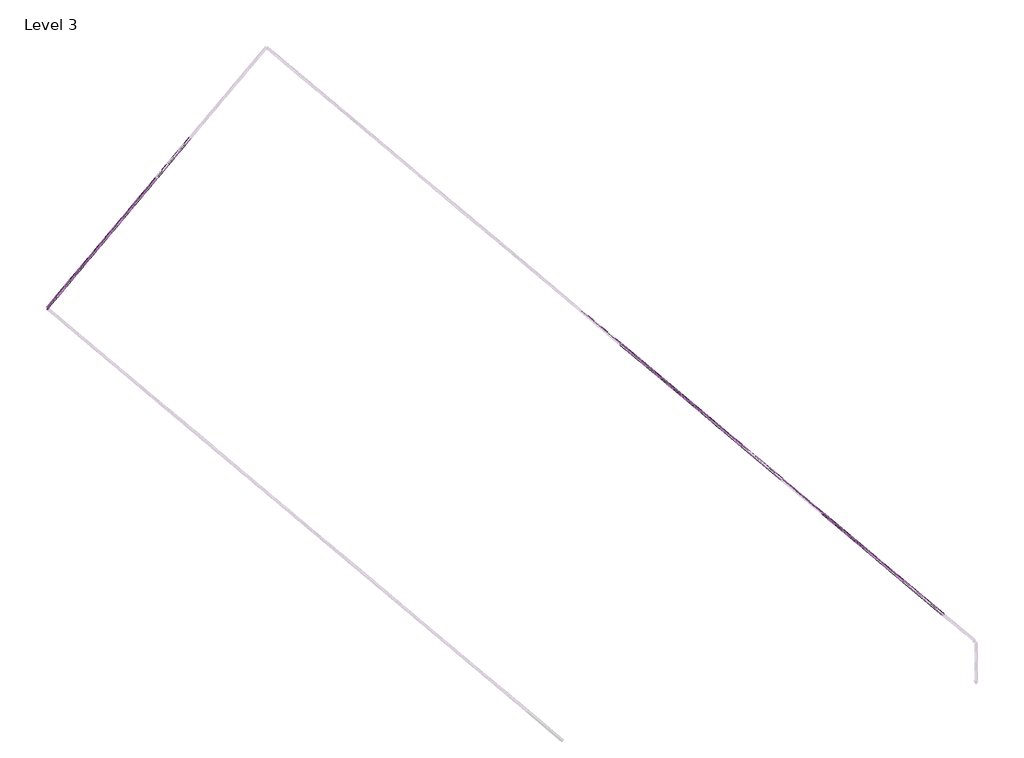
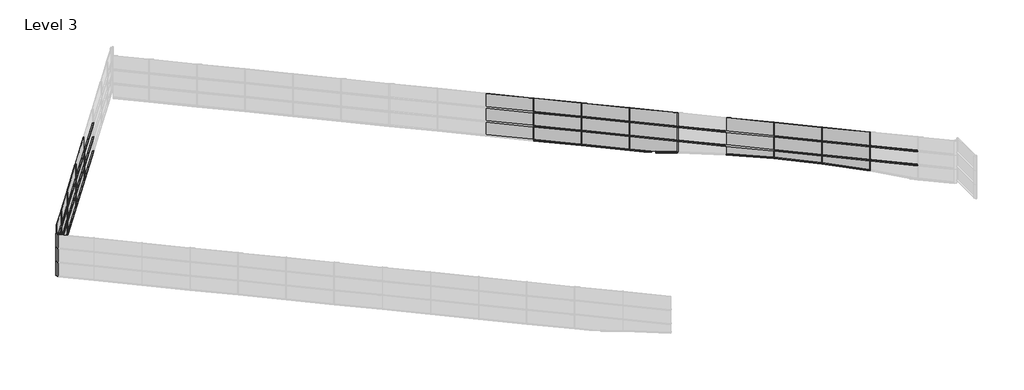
# One storey, part 3 of 4: 71 members, 33 plates.
"""IFC4 building model written with IfcOpenShell, lengths in millimetres."""

from ifc_helpers import new_model, si_unit, origin, place, context, project, spatial, transform, mapped, element, save
from components import member_e6b937b8, member_c2a2f73e, member_603446c5, member_2fb42f28, member_ef795203, member_eaba9652, member_7cbddb58, member_668938be, member_697baf5a, member_4b70c0b3, member_328d3667, member_adceca6a, member_117cba67, member_387caf8a, system_panel_glazed_a2c5a472, system_panel_glazed_3c43611c, system_panel_glazed_c349e88e, system_panel_glazed_51db33f8, system_panel_glazed_0cdb66c7, system_panel_glazed_95655f7c, system_panel_glazed_a2e3b23e

model = new_model("IFC4")

# Units and contexts
model_context = context("Model", 3, world=origin())
ifc_project = project(units=[si_unit("LENGTHUNIT", "METRE", prefix="MILLI")], contexts=[model_context])

# Site, building, storey
site = spatial("IfcSite", under=ifc_project)
building = spatial("IfcBuilding", under=site)
storey = spatial("IfcBuildingStorey", under=building, Name="Level 3", Elevation=6096.0)

# Members
placement = place(None, origin())
member_shape = member_e6b937b8(model_context)
element("IfcMember", 1, ObjectType="Rectangular Mullion : 1.5\" x 2.5\" rectangular", at=placement, inside=storey, context=model_context, shape_type="MappedRepresentation", body=[
    mapped(member_shape, transform((-58047.6752037, 33669.3461699, 7820.8974171), x_axis=(0.6427876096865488, 0.7660444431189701, 0.0), y_axis=(-0.7660444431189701, 0.6427876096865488, 0.0), z_axis=(0.0, 0.0, 1.0))),
])
element("IfcMember", 2, ObjectType="Rectangular Mullion : 1.5\" x 2.5\" rectangular", at=placement, inside=storey, context=model_context, shape_type="MappedRepresentation", body=[
    mapped(member_shape, transform((-56676.2235597, 35303.7785937, 7820.8974171), x_axis=(0.6427876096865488, 0.7660444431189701, 0.0), y_axis=(-0.7660444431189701, 0.6427876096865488, 0.0), z_axis=(0.0, 0.0, 1.0))),
])
element("IfcMember", 3, ObjectType="Rectangular Mullion : 1.5\" x 2.5\" rectangular", at=placement, inside=storey, context=model_context, shape_type="MappedRepresentation", body=[
    mapped(member_shape, transform((-54717.0069254, 37638.6820564, 7820.8974171), x_axis=(0.6427876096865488, 0.7660444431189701, 0.0), y_axis=(-0.7660444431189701, 0.6427876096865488, 0.0), z_axis=(0.0, 0.0, 1.0))),
])
element("IfcMember", 4, ObjectType="Rectangular Mullion : 1.5\" x 2.5\" rectangular", at=placement, inside=storey, context=model_context, shape_type="MappedRepresentation", body=[
    mapped(member_shape, transform((-52757.790291, 39973.585519, 7820.8974171), x_axis=(0.6427876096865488, 0.7660444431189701, 0.0), y_axis=(-0.7660444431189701, 0.6427876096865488, 0.0), z_axis=(0.0, 0.0, 1.0))),
])
element("IfcMember", 5, ObjectType="Rectangular Mullion : 1.5\" x 2.5\" rectangular", at=placement, inside=storey, context=model_context, shape_type="MappedRepresentation", body=[
    mapped(member_shape, transform((-58047.6752037, 33669.3461699, 8887.6974171), x_axis=(0.6427876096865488, 0.7660444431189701, 0.0), y_axis=(-0.7660444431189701, 0.6427876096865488, 0.0), z_axis=(0.0, 0.0, 1.0))),
])
element("IfcMember", 6, ObjectType="Rectangular Mullion : 1.5\" x 2.5\" rectangular", at=placement, inside=storey, context=model_context, shape_type="MappedRepresentation", body=[
    mapped(member_shape, transform((-56676.2235597, 35303.7785937, 8887.6974171), x_axis=(0.6427876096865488, 0.7660444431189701, 0.0), y_axis=(-0.7660444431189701, 0.6427876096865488, 0.0), z_axis=(0.0, 0.0, 1.0))),
])
element("IfcMember", 7, ObjectType="Rectangular Mullion : 1.5\" x 2.5\" rectangular", at=placement, inside=storey, context=model_context, shape_type="MappedRepresentation", body=[
    mapped(member_shape, transform((-54717.0069254, 37638.6820564, 8887.6974171), x_axis=(0.6427876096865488, 0.7660444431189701, 0.0), y_axis=(-0.7660444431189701, 0.6427876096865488, 0.0), z_axis=(0.0, 0.0, 1.0))),
])
element("IfcMember", 8, ObjectType="Rectangular Mullion : 1.5\" x 2.5\" rectangular", at=placement, inside=storey, context=model_context, shape_type="MappedRepresentation", body=[
    mapped(member_shape, transform((-52757.790291, 39973.585519, 8887.6974171), x_axis=(0.6427876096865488, 0.7660444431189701, 0.0), y_axis=(-0.7660444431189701, 0.6427876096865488, 0.0), z_axis=(0.0, 0.0, 1.0))),
])
element("IfcMember", 9, ObjectType="Rectangular Mullion : 1.5\" x 2.5\" rectangular", at=placement, inside=storey, context=model_context, shape_type="MappedRepresentation", body=[
    mapped(member_shape, transform((-58047.6752037, 33669.3461699, 9954.4974171), x_axis=(0.6427876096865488, 0.7660444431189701, 0.0), y_axis=(-0.7660444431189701, 0.6427876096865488, 0.0), z_axis=(0.0, 0.0, 1.0))),
])
element("IfcMember", 10, ObjectType="Rectangular Mullion : 1.5\" x 2.5\" rectangular", at=placement, inside=storey, context=model_context, shape_type="MappedRepresentation", body=[
    mapped(member_shape, transform((-56676.2235597, 35303.7785937, 9954.4974171), x_axis=(0.6427876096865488, 0.7660444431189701, 0.0), y_axis=(-0.7660444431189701, 0.6427876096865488, 0.0), z_axis=(0.0, 0.0, 1.0))),
])
element("IfcMember", 11, ObjectType="Rectangular Mullion : 1.5\" x 2.5\" rectangular", at=placement, inside=storey, context=model_context, shape_type="MappedRepresentation", body=[
    mapped(member_shape, transform((-54717.0069254, 37638.6820564, 9954.4974171), x_axis=(0.6427876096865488, 0.7660444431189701, 0.0), y_axis=(-0.7660444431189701, 0.6427876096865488, 0.0), z_axis=(0.0, 0.0, 1.0))),
])
element("IfcMember", 12, ObjectType="Rectangular Mullion : 1.5\" x 2.5\" rectangular", at=placement, inside=storey, context=model_context, shape_type="MappedRepresentation", body=[
    mapped(member_shape, transform((-25926.9227367, 30344.5515415, 7200.3444177), x_axis=(0.76604444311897, -0.6427876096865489, 0.0), y_axis=(0.6427876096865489, 0.76604444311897, 0.0), z_axis=(0.0, 0.0, 1.0))),
])
element("IfcMember", 13, ObjectType="Rectangular Mullion : 1.5\" x 2.5\" rectangular", at=placement, inside=storey, context=model_context, shape_type="MappedRepresentation", body=[
    mapped(member_shape, transform((-23592.0192741, 28385.3349072, 7200.3444177), x_axis=(0.76604444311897, -0.6427876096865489, 0.0), y_axis=(0.6427876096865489, 0.76604444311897, 0.0), z_axis=(0.0, 0.0, 1.0))),
])
element("IfcMember", 14, ObjectType="Rectangular Mullion : 1.5\" x 2.5\" rectangular", at=placement, inside=storey, context=model_context, shape_type="MappedRepresentation", body=[
    mapped(member_shape, transform((-21257.1158115, 26426.1182729, 7200.3444177), x_axis=(0.76604444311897, -0.6427876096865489, 0.0), y_axis=(0.6427876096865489, 0.76604444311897, 0.0), z_axis=(0.0, 0.0, 1.0))),
])
element("IfcMember", 15, ObjectType="Rectangular Mullion : 1.5\" x 2.5\" rectangular", at=placement, inside=storey, context=model_context, shape_type="MappedRepresentation", body=[
    mapped(member_shape, transform((-25926.9227367, 30344.5515415, 8267.1444177), x_axis=(0.76604444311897, -0.6427876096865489, 0.0), y_axis=(0.6427876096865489, 0.76604444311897, 0.0), z_axis=(0.0, 0.0, 1.0))),
])
element("IfcMember", 16, ObjectType="Rectangular Mullion : 1.5\" x 2.5\" rectangular", at=placement, inside=storey, context=model_context, shape_type="MappedRepresentation", body=[
    mapped(member_shape, transform((-23592.0192741, 28385.3349072, 8267.1444177), x_axis=(0.76604444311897, -0.6427876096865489, 0.0), y_axis=(0.6427876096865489, 0.76604444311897, 0.0), z_axis=(0.0, 0.0, 1.0))),
])
element("IfcMember", 17, ObjectType="Rectangular Mullion : 1.5\" x 2.5\" rectangular", at=placement, inside=storey, context=model_context, shape_type="MappedRepresentation", body=[
    mapped(member_shape, transform((-21257.1158115, 26426.1182729, 8267.1444177), x_axis=(0.76604444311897, -0.6427876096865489, 0.0), y_axis=(0.6427876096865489, 0.76604444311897, 0.0), z_axis=(0.0, 0.0, 1.0))),
])
element("IfcMember", 18, ObjectType="Rectangular Mullion : 1.5\" x 2.5\" rectangular", at=placement, inside=storey, context=model_context, shape_type="MappedRepresentation", body=[
    mapped(member_shape, transform((-25926.9227367, 30344.5515415, 9333.9444177), x_axis=(0.76604444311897, -0.6427876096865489, 0.0), y_axis=(0.6427876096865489, 0.76604444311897, 0.0), z_axis=(0.0, 0.0, 1.0))),
])
element("IfcMember", 19, ObjectType="Rectangular Mullion : 1.5\" x 2.5\" rectangular", at=placement, inside=storey, context=model_context, shape_type="MappedRepresentation", body=[
    mapped(member_shape, transform((-23592.0192741, 28385.3349072, 9333.9444177), x_axis=(0.76604444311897, -0.6427876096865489, 0.0), y_axis=(0.6427876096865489, 0.76604444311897, 0.0), z_axis=(0.0, 0.0, 1.0))),
])
element("IfcMember", 20, ObjectType="Rectangular Mullion : 1.5\" x 2.5\" rectangular", at=placement, inside=storey, context=model_context, shape_type="MappedRepresentation", body=[
    mapped(member_shape, transform((-21257.1158115, 26426.1182729, 9333.9444177), x_axis=(0.76604444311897, -0.6427876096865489, 0.0), y_axis=(0.6427876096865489, 0.76604444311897, 0.0), z_axis=(0.0, 0.0, 1.0))),
])
element("IfcMember", 21, ObjectType="Rectangular Mullion : 1.5\" x 2.5\" rectangular", at=placement, inside=storey, context=model_context, shape_type="MappedRepresentation", body=[
    mapped(member_shape, transform((-18922.2123489, 24466.9016385, 8267.1444177), x_axis=(0.76604444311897, -0.6427876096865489, 0.0), y_axis=(0.6427876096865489, 0.76604444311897, 0.0), z_axis=(0.0, 0.0, 1.0))),
])
element("IfcMember", 22, ObjectType="Rectangular Mullion : 1.5\" x 2.5\" rectangular", at=placement, inside=storey, context=model_context, shape_type="MappedRepresentation", body=[
    mapped(member_shape, transform((-14252.4054236, 20548.4683699, 8267.1444177), x_axis=(0.76604444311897, -0.6427876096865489, 0.0), y_axis=(0.6427876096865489, 0.76604444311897, 0.0), z_axis=(0.0, 0.0, 1.0))),
])
element("IfcMember", 23, ObjectType="Rectangular Mullion : 1.5\" x 2.5\" rectangular", at=placement, inside=storey, context=model_context, shape_type="MappedRepresentation", body=[
    mapped(member_shape, transform((-11917.501961, 18589.2517356, 8267.1444177), x_axis=(0.76604444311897, -0.6427876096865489, 0.0), y_axis=(0.6427876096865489, 0.76604444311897, 0.0), z_axis=(0.0, 0.0, 1.0))),
])
element("IfcMember", 24, ObjectType="Rectangular Mullion : 1.5\" x 2.5\" rectangular", at=placement, inside=storey, context=model_context, shape_type="MappedRepresentation", body=[
    mapped(member_shape, transform((-9582.5984984, 16630.0351012, 8267.1444177), x_axis=(0.76604444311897, -0.6427876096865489, 0.0), y_axis=(0.6427876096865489, 0.76604444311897, 0.0), z_axis=(0.0, 0.0, 1.0))),
])
element("IfcMember", 25, ObjectType="Rectangular Mullion : 1.5\" x 2.5\" rectangular", at=placement, inside=storey, context=model_context, shape_type="MappedRepresentation", body=[
    mapped(member_shape, transform((-18922.2123489, 24466.9016385, 9333.9444177), x_axis=(0.76604444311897, -0.6427876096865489, 0.0), y_axis=(0.6427876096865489, 0.76604444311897, 0.0), z_axis=(0.0, 0.0, 1.0))),
])
element("IfcMember", 26, ObjectType="Rectangular Mullion : 1.5\" x 2.5\" rectangular", at=placement, inside=storey, context=model_context, shape_type="MappedRepresentation", body=[
    mapped(member_shape, transform((-14252.4054236, 20548.4683699, 9333.9444177), x_axis=(0.76604444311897, -0.6427876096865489, 0.0), y_axis=(0.6427876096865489, 0.76604444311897, 0.0), z_axis=(0.0, 0.0, 1.0))),
])
element("IfcMember", 27, ObjectType="Rectangular Mullion : 1.5\" x 2.5\" rectangular", at=placement, inside=storey, context=model_context, shape_type="MappedRepresentation", body=[
    mapped(member_shape, transform((-11917.501961, 18589.2517356, 9333.9444177), x_axis=(0.76604444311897, -0.6427876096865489, 0.0), y_axis=(0.6427876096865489, 0.76604444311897, 0.0), z_axis=(0.0, 0.0, 1.0))),
])
element("IfcMember", 28, ObjectType="Rectangular Mullion : 1.5\" x 2.5\" rectangular", at=placement, inside=storey, context=model_context, shape_type="MappedRepresentation", body=[
    mapped(member_shape, transform((-9582.5984984, 16630.0351012, 9333.9444177), x_axis=(0.76604444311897, -0.6427876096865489, 0.0), y_axis=(0.6427876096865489, 0.76604444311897, 0.0), z_axis=(0.0, 0.0, 1.0))),
])
member_2_shape = member_c2a2f73e(model_context)
element("IfcMember", 29, ObjectType="Rectangular Mullion : 1.5\" x 2.5\" rectangular", at=placement, inside=storey, context=model_context, shape_type="MappedRepresentation", body=[
    mapped(member_2_shape, transform((-18922.2123489, 24466.9016385, 7200.3444177), x_axis=(0.76604444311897, -0.6427876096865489, 0.0), y_axis=(0.6427876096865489, 0.76604444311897, 0.0), z_axis=(0.0, 0.0, 1.0))),
])
member_3_shape = member_603446c5(model_context)
element("IfcMember", 30, ObjectType="Rectangular Mullion : 1.5\" x 2.5\" rectangular", at=placement, inside=storey, context=model_context, shape_type="MappedRepresentation", body=[
    mapped(member_3_shape, transform((-14252.4054236, 20548.4683699, 7200.3444177), x_axis=(0.76604444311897, -0.6427876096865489, 0.0), y_axis=(0.6427876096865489, 0.76604444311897, 0.0), z_axis=(0.0, 0.0, 1.0))),
])
member_4_shape = member_2fb42f28(model_context)
element("IfcMember", 31, ObjectType="Rectangular Mullion : 1.5\" x 2.5\" rectangular", at=placement, inside=storey, context=model_context, shape_type="MappedRepresentation", body=[
    mapped(member_4_shape, transform((-11917.501961, 18589.2517356, 7200.3444177), x_axis=(0.76604444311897, -0.6427876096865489, 0.0), y_axis=(0.6427876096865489, 0.76604444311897, 0.0), z_axis=(0.0, 0.0, 1.0))),
])
member_5_shape = member_ef795203(model_context)
element("IfcMember", 32, ObjectType="Rectangular Mullion : 1.5\" x 2.5\" rectangular", at=placement, inside=storey, context=model_context, shape_type="MappedRepresentation", body=[
    mapped(member_5_shape, transform((-9582.5984984, 16630.0351012, 7200.3444177), x_axis=(0.76604444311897, -0.6427876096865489, 0.0), y_axis=(0.6427876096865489, 0.76604444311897, 0.0), z_axis=(0.0, 0.0, 1.0))),
])
member_6_shape = member_eaba9652(model_context)
element("IfcMember", 33, ObjectType="Rectangular Mullion : 2.5\" x 5\" rectangular", at=placement, inside=storey, context=model_context, shape_type="MappedRepresentation", body=[
    mapped(member_6_shape, transform((-56676.2235597, 35303.7785937, 6785.8474171), x_axis=(0.0, 0.0, 1.0), y_axis=(-0.766044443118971, 0.6427876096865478, 0.0), z_axis=(-0.6427876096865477, -0.7660444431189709, 0.0))),
])
element("IfcMember", 34, ObjectType="Rectangular Mullion : 2.5\" x 5\" rectangular", at=placement, inside=storey, context=model_context, shape_type="MappedRepresentation", body=[
    mapped(member_6_shape, transform((-54717.0069254, 37638.6820564, 6785.8474171), x_axis=(0.0, 0.0, 1.0), y_axis=(-0.7660444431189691, 0.6427876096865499, 0.0), z_axis=(-0.6427876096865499, -0.7660444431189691, 0.0))),
])
element("IfcMember", 35, ObjectType="Rectangular Mullion : 2.5\" x 5\" rectangular", at=placement, inside=storey, context=model_context, shape_type="MappedRepresentation", body=[
    mapped(member_6_shape, transform((-52757.790291, 39973.585519, 6785.8474171), x_axis=(0.0, 0.0, 1.0), y_axis=(-0.76604444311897, 0.642787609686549, 0.0), z_axis=(-0.6427876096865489, -0.7660444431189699, 0.0))),
])
element("IfcMember", 36, ObjectType="Rectangular Mullion : 2.5\" x 5\" rectangular", at=placement, inside=storey, context=model_context, shape_type="MappedRepresentation", body=[
    mapped(member_6_shape, transform((-56676.2235597, 35303.7785937, 7852.6474171), x_axis=(0.0, 0.0, 1.0), y_axis=(-0.7660444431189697, 0.6427876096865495, 0.0), z_axis=(-0.6427876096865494, -0.7660444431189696, 0.0))),
])
element("IfcMember", 37, ObjectType="Rectangular Mullion : 2.5\" x 5\" rectangular", at=placement, inside=storey, context=model_context, shape_type="MappedRepresentation", body=[
    mapped(member_6_shape, transform((-54717.0069254, 37638.6820564, 7852.6474171), x_axis=(0.0, 0.0, 1.0), y_axis=(-0.7660444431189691, 0.6427876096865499, 0.0), z_axis=(-0.6427876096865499, -0.7660444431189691, 0.0))),
])
element("IfcMember", 38, ObjectType="Rectangular Mullion : 2.5\" x 5\" rectangular", at=placement, inside=storey, context=model_context, shape_type="MappedRepresentation", body=[
    mapped(member_6_shape, transform((-52757.790291, 39973.585519, 7852.6474171), x_axis=(0.0, 0.0, 1.0), y_axis=(-0.76604444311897, 0.642787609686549, 0.0), z_axis=(-0.6427876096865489, -0.7660444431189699, 0.0))),
])
element("IfcMember", 39, ObjectType="Rectangular Mullion : 2.5\" x 5\" rectangular", at=placement, inside=storey, context=model_context, shape_type="MappedRepresentation", body=[
    mapped(member_6_shape, transform((-56676.2235597, 35303.7785937, 8919.4474171), x_axis=(0.0, 0.0, 1.0), y_axis=(-0.7660444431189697, 0.6427876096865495, 0.0), z_axis=(-0.6427876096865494, -0.7660444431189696, 0.0))),
])
element("IfcMember", 40, ObjectType="Rectangular Mullion : 2.5\" x 5\" rectangular", at=placement, inside=storey, context=model_context, shape_type="MappedRepresentation", body=[
    mapped(member_6_shape, transform((-54717.0069254, 37638.6820564, 8919.4474171), x_axis=(0.0, 0.0, 1.0), y_axis=(-0.7660444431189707, 0.6427876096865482, 0.0), z_axis=(-0.6427876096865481, -0.7660444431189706, 0.0))),
])
element("IfcMember", 41, ObjectType="Rectangular Mullion : 2.5\" x 5\" rectangular", at=placement, inside=storey, context=model_context, shape_type="MappedRepresentation", body=[
    mapped(member_6_shape, transform((-52757.790291, 39973.585519, 8919.4474171), x_axis=(0.0, 0.0, 1.0), y_axis=(-0.76604444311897, 0.642787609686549, 0.0), z_axis=(-0.6427876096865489, -0.7660444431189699, 0.0))),
])
element("IfcMember", 42, ObjectType="Rectangular Mullion : 2.5\" x 5\" rectangular", at=placement, inside=storey, context=model_context, shape_type="MappedRepresentation", body=[
    mapped(member_6_shape, transform((-25926.9227367, 30344.5515415, 6165.2944177), x_axis=(0.0, 0.0, 1.0), y_axis=(0.6427876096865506, 0.7660444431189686, 0.0), z_axis=(-0.7660444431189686, 0.6427876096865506, 0.0))),
])
element("IfcMember", 43, ObjectType="Rectangular Mullion : 2.5\" x 5\" rectangular", at=placement, inside=storey, context=model_context, shape_type="MappedRepresentation", body=[
    mapped(member_6_shape, transform((-23592.0192741, 28385.3349072, 6165.2944177), x_axis=(0.0, 0.0, 1.0), y_axis=(0.642787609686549, 0.76604444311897, 0.0), z_axis=(-0.7660444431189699, 0.6427876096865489, 0.0))),
])
element("IfcMember", 44, ObjectType="Rectangular Mullion : 2.5\" x 5\" rectangular", at=placement, inside=storey, context=model_context, shape_type="MappedRepresentation", body=[
    mapped(member_6_shape, transform((-25926.9227367, 30344.5515415, 7232.0944177), x_axis=(0.0, 0.0, 1.0), y_axis=(0.6427876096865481, 0.7660444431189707, 0.0), z_axis=(-0.7660444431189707, 0.6427876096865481, 0.0))),
])
element("IfcMember", 45, ObjectType="Rectangular Mullion : 2.5\" x 5\" rectangular", at=placement, inside=storey, context=model_context, shape_type="MappedRepresentation", body=[
    mapped(member_6_shape, transform((-23592.0192741, 28385.3349072, 7232.0944177), x_axis=(0.0, 0.0, 1.0), y_axis=(0.6427876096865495, 0.7660444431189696, 0.0), z_axis=(-0.7660444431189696, 0.6427876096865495, 0.0))),
])
element("IfcMember", 46, ObjectType="Rectangular Mullion : 2.5\" x 5\" rectangular", at=placement, inside=storey, context=model_context, shape_type="MappedRepresentation", body=[
    mapped(member_6_shape, transform((-21257.1158115, 26426.1182729, 7232.0944177), x_axis=(0.0, 0.0, 1.0), y_axis=(0.6427876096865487, 0.7660444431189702, 0.0), z_axis=(-0.7660444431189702, 0.6427876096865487, 0.0))),
])
element("IfcMember", 47, ObjectType="Rectangular Mullion : 2.5\" x 5\" rectangular", at=placement, inside=storey, context=model_context, shape_type="MappedRepresentation", body=[
    mapped(member_6_shape, transform((-25926.9227367, 30344.5515415, 8298.8944177), x_axis=(0.0, 0.0, 1.0), y_axis=(0.6427876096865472, 0.7660444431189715, 0.0), z_axis=(-0.7660444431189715, 0.6427876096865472, 0.0))),
])
element("IfcMember", 48, ObjectType="Rectangular Mullion : 2.5\" x 5\" rectangular", at=placement, inside=storey, context=model_context, shape_type="MappedRepresentation", body=[
    mapped(member_6_shape, transform((-23592.0192741, 28385.3349072, 8298.8944177), x_axis=(0.0, 0.0, 1.0), y_axis=(0.64278760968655, 0.766044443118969, 0.0), z_axis=(-0.766044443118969, 0.64278760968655, 0.0))),
])
element("IfcMember", 49, ObjectType="Rectangular Mullion : 2.5\" x 5\" rectangular", at=placement, inside=storey, context=model_context, shape_type="MappedRepresentation", body=[
    mapped(member_6_shape, transform((-21257.1158115, 26426.1182729, 8298.8944177), x_axis=(0.0, 0.0, 1.0), y_axis=(0.6427876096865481, 0.7660444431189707, 0.0), z_axis=(-0.7660444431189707, 0.6427876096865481, 0.0))),
])
element("IfcMember", 50, ObjectType="Rectangular Mullion : 2.5\" x 5\" rectangular", at=placement, inside=storey, context=model_context, shape_type="MappedRepresentation", body=[
    mapped(member_6_shape, transform((-18922.2123489, 24466.9016385, 7232.0944177), x_axis=(0.0, 0.0, 1.0), y_axis=(0.6427876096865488, 0.7660444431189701, 0.0), z_axis=(-0.7660444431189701, 0.6427876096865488, 0.0))),
])
element("IfcMember", 51, ObjectType="Rectangular Mullion : 2.5\" x 5\" rectangular", at=placement, inside=storey, context=model_context, shape_type="MappedRepresentation", body=[
    mapped(member_6_shape, transform((-14252.4054236, 20548.4683699, 7232.0944177), x_axis=(0.0, 0.0, 1.0), y_axis=(0.642787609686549, 0.76604444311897, 0.0), z_axis=(-0.7660444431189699, 0.6427876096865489, 0.0))),
])
element("IfcMember", 52, ObjectType="Rectangular Mullion : 2.5\" x 5\" rectangular", at=placement, inside=storey, context=model_context, shape_type="MappedRepresentation", body=[
    mapped(member_6_shape, transform((-11917.501961, 18589.2517356, 7232.0944177), x_axis=(0.0, 0.0, 1.0), y_axis=(0.6427876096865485, 0.7660444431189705, 0.0), z_axis=(-0.7660444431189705, 0.6427876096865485, 0.0))),
])
element("IfcMember", 53, ObjectType="Rectangular Mullion : 2.5\" x 5\" rectangular", at=placement, inside=storey, context=model_context, shape_type="MappedRepresentation", body=[
    mapped(member_6_shape, transform((-9582.5984984, 16630.0351012, 7232.0944177), x_axis=(0.0, 0.0, 1.0), y_axis=(0.6427876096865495, 0.7660444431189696, 0.0), z_axis=(-0.7660444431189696, 0.6427876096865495, 0.0))),
])
element("IfcMember", 54, ObjectType="Rectangular Mullion : 2.5\" x 5\" rectangular", at=placement, inside=storey, context=model_context, shape_type="MappedRepresentation", body=[
    mapped(member_6_shape, transform((-18922.2123489, 24466.9016385, 8298.8944177), x_axis=(0.0, 0.0, 1.0), y_axis=(0.6427876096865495, 0.7660444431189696, 0.0), z_axis=(-0.7660444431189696, 0.6427876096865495, 0.0))),
])
element("IfcMember", 55, ObjectType="Rectangular Mullion : 2.5\" x 5\" rectangular", at=placement, inside=storey, context=model_context, shape_type="MappedRepresentation", body=[
    mapped(member_6_shape, transform((-14252.4054236, 20548.4683699, 8298.8944177), x_axis=(0.0, 0.0, 1.0), y_axis=(0.642787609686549, 0.76604444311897, 0.0), z_axis=(-0.7660444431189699, 0.6427876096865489, 0.0))),
])
element("IfcMember", 56, ObjectType="Rectangular Mullion : 2.5\" x 5\" rectangular", at=placement, inside=storey, context=model_context, shape_type="MappedRepresentation", body=[
    mapped(member_6_shape, transform((-11917.501961, 18589.2517356, 8298.8944177), x_axis=(0.0, 0.0, 1.0), y_axis=(0.6427876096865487, 0.7660444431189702, 0.0), z_axis=(-0.7660444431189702, 0.6427876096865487, 0.0))),
])
element("IfcMember", 57, ObjectType="Rectangular Mullion : 2.5\" x 5\" rectangular", at=placement, inside=storey, context=model_context, shape_type="MappedRepresentation", body=[
    mapped(member_6_shape, transform((-9582.5984984, 16630.0351012, 8298.8944177), x_axis=(0.0, 0.0, 1.0), y_axis=(0.6427876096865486, 0.7660444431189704, 0.0), z_axis=(-0.7660444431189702, 0.6427876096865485, 0.0))),
])
member_7_shape = member_7cbddb58(model_context)
element("IfcMember", 58, ObjectType="Rectangular Mullion : 2.5\" x 5\" rectangular", at=placement, inside=storey, context=model_context, shape_type="MappedRepresentation", body=[
    mapped(member_7_shape, transform((-58047.6752037, 33669.3461699, 6785.8474171), x_axis=(0.0, 0.0, 1.0), y_axis=(-0.766044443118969, 0.6427876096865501, 0.0), z_axis=(-0.6427876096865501, -0.766044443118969, 0.0))),
])
element("IfcMember", 59, ObjectType="Rectangular Mullion : 2.5\" x 5\" rectangular", at=placement, inside=storey, context=model_context, shape_type="MappedRepresentation", body=[
    mapped(member_7_shape, transform((-58047.6752037, 33669.3461699, 7852.6474171), x_axis=(0.0, 0.0, 1.0), y_axis=(-0.766044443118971, 0.6427876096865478, 0.0), z_axis=(-0.6427876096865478, -0.766044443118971, 0.0))),
])
element("IfcMember", 60, ObjectType="Rectangular Mullion : 2.5\" x 5\" rectangular", at=placement, inside=storey, context=model_context, shape_type="MappedRepresentation", body=[
    mapped(member_7_shape, transform((-58047.6752037, 33669.3461699, 8919.4474171), x_axis=(0.0, 0.0, 1.0), y_axis=(-0.766044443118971, 0.6427876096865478, 0.0), z_axis=(-0.6427876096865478, -0.766044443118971, 0.0))),
])
member_8_shape = member_668938be(model_context)
element("IfcMember", 61, ObjectType="Rectangular Mullion : 2.5\" x 5\" rectangular", at=placement, inside=storey, context=model_context, shape_type="MappedRepresentation", body=[
    mapped(member_8_shape, transform((-21257.1158115, 26426.1182729, 6165.2944177), x_axis=(0.0, 0.0, 1.0), y_axis=(0.6427876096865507, 0.7660444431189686, 0.0), z_axis=(-0.7660444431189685, 0.6427876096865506, 0.0))),
])
member_9_shape = member_697baf5a(model_context)
element("IfcMember", 62, ObjectType="Rectangular Mullion : 2.5\" x 5\" rectangular", at=placement, inside=storey, context=model_context, shape_type="MappedRepresentation", body=[
    mapped(member_9_shape, transform((-18922.2123489, 24466.9016385, 6311.1441849), x_axis=(0.08028922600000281, -0.06737065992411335, -0.9944922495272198), y_axis=(0.6427876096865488, 0.7660444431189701, 0.0), z_axis=(0.7618252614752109, -0.6392472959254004, 0.10481014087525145))),
])
member_10_shape = member_4b70c0b3(model_context)
element("IfcMember", 63, ObjectType="Rectangular Mullion : 2.5\" x 5\" rectangular", at=placement, inside=storey, context=model_context, shape_type="MappedRepresentation", body=[
    mapped(member_10_shape, transform((-14252.4054236, 20548.4683699, 6626.1560079), x_axis=(0.02287921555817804, -0.019197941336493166, -0.9995538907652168), y_axis=(0.6427876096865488, 0.7660444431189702, 0.0), z_axis=(0.7657027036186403, -0.6425008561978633, 0.0298666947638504))),
])
member_11_shape = member_328d3667(model_context)
element("IfcMember", 64, ObjectType="Rectangular Mullion : 2.5\" x 5\" rectangular", at=placement, inside=storey, context=model_context, shape_type="MappedRepresentation", body=[
    mapped(member_11_shape, transform((-11917.501961, 18589.2517356, 6584.8842988), x_axis=(-0.010371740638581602, 0.00870292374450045, -0.9999083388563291), y_axis=(0.6427876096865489, 0.76604444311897, 0.0), z_axis=(0.7659742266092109, -0.6427286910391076, -0.013539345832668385))),
])
member_12_shape = member_adceca6a(model_context)
element("IfcMember", 65, ObjectType="Rectangular Mullion : 2.5\" x 5\" rectangular", at=placement, inside=storey, context=model_context, shape_type="MappedRepresentation", body=[
    mapped(member_12_shape, transform((-9582.5984984, 16630.0351012, 6411.0325437), x_axis=(-0.043622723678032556, 0.036603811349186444, -0.9983772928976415), y_axis=(0.6427876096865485, 0.7660444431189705, 0.0), z_axis=(0.7648013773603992, -0.6417445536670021, -0.056945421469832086))),
])
member_13_shape = member_117cba67(model_context)
element("IfcMember", 66, ObjectType="Rectangular Mullion : 2.5\" x 5\" rectangular", at=placement, inside=storey, context=model_context, shape_type="MappedRepresentation", body=[
    mapped(member_13_shape, transform((-59041.0592628, 32485.4771486, 6785.8474171), x_axis=(0.0, 0.0, 1.0), y_axis=(-0.76604444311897, 0.6427876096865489, 0.0), z_axis=(-0.6427876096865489, -0.76604444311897, 0.0))),
])
element("IfcMember", 67, ObjectType="Rectangular Mullion : 2.5\" x 5\" rectangular", at=placement, inside=storey, context=model_context, shape_type="MappedRepresentation", body=[
    mapped(member_13_shape, transform((-59041.0592628, 32485.4771486, 7852.6474171), x_axis=(0.0, 0.0, 1.0), y_axis=(-0.76604444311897, 0.6427876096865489, 0.0), z_axis=(-0.6427876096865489, -0.76604444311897, 0.0))),
])
element("IfcMember", 68, ObjectType="Rectangular Mullion : 2.5\" x 5\" rectangular", at=placement, inside=storey, context=model_context, shape_type="MappedRepresentation", body=[
    mapped(member_13_shape, transform((-59041.0592628, 32485.4771486, 8919.4474171), x_axis=(0.0, 0.0, 1.0), y_axis=(-0.76604444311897, 0.6427876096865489, 0.0), z_axis=(-0.6427876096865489, -0.76604444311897, 0.0))),
])
member_14_shape = member_387caf8a(model_context)
element("IfcMember", 69, ObjectType="V Corner Mullion : 5\" V Corner", at=placement, inside=storey, context=model_context, shape_type="MappedRepresentation", body=[
    mapped(member_14_shape, transform((-59102.2847827, 32412.5114154, 7232.0944177), x_axis=(-0.76604444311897, 0.6427876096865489, 0.0), y_axis=(-0.6427876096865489, -0.76604444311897, 0.0), z_axis=(0.0, 0.0, 1.0))),
])
element("IfcMember", 70, ObjectType="V Corner Mullion : 5\" V Corner", at=placement, inside=storey, context=model_context, shape_type="MappedRepresentation", body=[
    mapped(member_14_shape, transform((-59102.2847827, 32412.5114154, 8298.8944177), x_axis=(-0.76604444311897, 0.6427876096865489, 0.0), y_axis=(-0.6427876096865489, -0.76604444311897, 0.0), z_axis=(0.0, 0.0, 1.0))),
])
element("IfcMember", 71, ObjectType="V Corner Mullion : 5\" V Corner", at=placement, inside=storey, context=model_context, shape_type="MappedRepresentation", body=[
    mapped(member_14_shape, transform((-59102.2847827, 32412.5114154, 9365.6944177), x_axis=(-0.76604444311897, 0.6427876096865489, 0.0), y_axis=(-0.6427876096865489, -0.76604444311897, 0.0), z_axis=(0.0, 0.0, 1.0))),
])

# Plates
system_panel_glazed_shape = system_panel_glazed_a2c5a472(model_context)
element("IfcPlate", 72, ObjectType="System Panel : Glazed", at=placement, inside=storey, context=model_context, shape_type="MappedRepresentation", body=[
    mapped(system_panel_glazed_shape, transform((-27094.3744681, 31324.1598587, 6197.0444177), x_axis=(0.76604444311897, -0.6427876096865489, 0.0), y_axis=(0.6427876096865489, 0.76604444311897, 0.0), z_axis=(0.0, 0.0, 1.0))),
])
element("IfcPlate", 73, ObjectType="System Panel : Glazed", at=placement, inside=storey, context=model_context, shape_type="MappedRepresentation", body=[
    mapped(system_panel_glazed_shape, transform((-24759.4710054, 29364.9432244, 6197.0444177), x_axis=(0.76604444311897, -0.6427876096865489, 0.0), y_axis=(0.6427876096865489, 0.76604444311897, 0.0), z_axis=(0.0, 0.0, 1.0))),
])
element("IfcPlate", 74, ObjectType="System Panel : Glazed", at=placement, inside=storey, context=model_context, shape_type="MappedRepresentation", body=[
    mapped(system_panel_glazed_shape, transform((-22424.5675428, 27405.72659, 6197.0444177), x_axis=(0.76604444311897, -0.6427876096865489, 0.0), y_axis=(0.6427876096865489, 0.76604444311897, 0.0), z_axis=(0.0, 0.0, 1.0))),
])
element("IfcPlate", 75, ObjectType="System Panel : Glazed", at=placement, inside=storey, context=model_context, shape_type="MappedRepresentation", body=[
    mapped(system_panel_glazed_shape, transform((-27094.3744681, 31324.1598587, 7263.8444177), x_axis=(0.76604444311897, -0.6427876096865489, 0.0), y_axis=(0.6427876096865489, 0.76604444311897, 0.0), z_axis=(0.0, 0.0, 1.0))),
])
element("IfcPlate", 76, ObjectType="System Panel : Glazed", at=placement, inside=storey, context=model_context, shape_type="MappedRepresentation", body=[
    mapped(system_panel_glazed_shape, transform((-24759.4710054, 29364.9432244, 7263.8444177), x_axis=(0.76604444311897, -0.6427876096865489, 0.0), y_axis=(0.6427876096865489, 0.76604444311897, 0.0), z_axis=(0.0, 0.0, 1.0))),
])
element("IfcPlate", 77, ObjectType="System Panel : Glazed", at=placement, inside=storey, context=model_context, shape_type="MappedRepresentation", body=[
    mapped(system_panel_glazed_shape, transform((-22424.5675428, 27405.72659, 7263.8444177), x_axis=(0.76604444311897, -0.6427876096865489, 0.0), y_axis=(0.6427876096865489, 0.76604444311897, 0.0), z_axis=(0.0, 0.0, 1.0))),
])
element("IfcPlate", 78, ObjectType="System Panel : Glazed", at=placement, inside=storey, context=model_context, shape_type="MappedRepresentation", body=[
    mapped(system_panel_glazed_shape, transform((-20089.6640802, 25446.5099557, 7263.8444177), x_axis=(0.76604444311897, -0.6427876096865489, 0.0), y_axis=(0.6427876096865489, 0.76604444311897, 0.0), z_axis=(0.0, 0.0, 1.0))),
])
element("IfcPlate", 79, ObjectType="System Panel : Glazed", at=placement, inside=storey, context=model_context, shape_type="MappedRepresentation", body=[
    mapped(system_panel_glazed_shape, transform((-27094.3744681, 31324.1598587, 8330.6444177), x_axis=(0.76604444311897, -0.6427876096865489, 0.0), y_axis=(0.6427876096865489, 0.76604444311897, 0.0), z_axis=(0.0, 0.0, 1.0))),
])
element("IfcPlate", 80, ObjectType="System Panel : Glazed", at=placement, inside=storey, context=model_context, shape_type="MappedRepresentation", body=[
    mapped(system_panel_glazed_shape, transform((-24759.4710054, 29364.9432244, 8330.6444177), x_axis=(0.76604444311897, -0.6427876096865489, 0.0), y_axis=(0.6427876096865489, 0.76604444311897, 0.0), z_axis=(0.0, 0.0, 1.0))),
])
element("IfcPlate", 81, ObjectType="System Panel : Glazed", at=placement, inside=storey, context=model_context, shape_type="MappedRepresentation", body=[
    mapped(system_panel_glazed_shape, transform((-22424.5675428, 27405.72659, 8330.6444177), x_axis=(0.76604444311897, -0.6427876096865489, 0.0), y_axis=(0.6427876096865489, 0.76604444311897, 0.0), z_axis=(0.0, 0.0, 1.0))),
])
element("IfcPlate", 82, ObjectType="System Panel : Glazed", at=placement, inside=storey, context=model_context, shape_type="MappedRepresentation", body=[
    mapped(system_panel_glazed_shape, transform((-20089.6640802, 25446.5099557, 8330.6444177), x_axis=(0.76604444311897, -0.6427876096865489, 0.0), y_axis=(0.6427876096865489, 0.76604444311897, 0.0), z_axis=(0.0, 0.0, 1.0))),
])
element("IfcPlate", 83, ObjectType="System Panel : Glazed", at=placement, inside=storey, context=model_context, shape_type="MappedRepresentation", body=[
    mapped(system_panel_glazed_shape, transform((-55696.6152425, 36471.230325, 6817.5974171), x_axis=(0.6427876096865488, 0.7660444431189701, 0.0), y_axis=(-0.7660444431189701, 0.6427876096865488, 0.0), z_axis=(0.0, 0.0, 1.0))),
])
element("IfcPlate", 84, ObjectType="System Panel : Glazed", at=placement, inside=storey, context=model_context, shape_type="MappedRepresentation", body=[
    mapped(system_panel_glazed_shape, transform((-53737.3986082, 38806.1337877, 6817.5974171), x_axis=(0.6427876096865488, 0.7660444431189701, 0.0), y_axis=(-0.7660444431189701, 0.6427876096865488, 0.0), z_axis=(0.0, 0.0, 1.0))),
])
element("IfcPlate", 85, ObjectType="System Panel : Glazed", at=placement, inside=storey, context=model_context, shape_type="MappedRepresentation", body=[
    mapped(system_panel_glazed_shape, transform((-55696.6152425, 36471.230325, 7884.3974171), x_axis=(0.6427876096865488, 0.7660444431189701, 0.0), y_axis=(-0.7660444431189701, 0.6427876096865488, 0.0), z_axis=(0.0, 0.0, 1.0))),
])
element("IfcPlate", 86, ObjectType="System Panel : Glazed", at=placement, inside=storey, context=model_context, shape_type="MappedRepresentation", body=[
    mapped(system_panel_glazed_shape, transform((-53737.3986082, 38806.1337877, 7884.3974171), x_axis=(0.6427876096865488, 0.7660444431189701, 0.0), y_axis=(-0.7660444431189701, 0.6427876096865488, 0.0), z_axis=(0.0, 0.0, 1.0))),
])
element("IfcPlate", 87, ObjectType="System Panel : Glazed", at=placement, inside=storey, context=model_context, shape_type="MappedRepresentation", body=[
    mapped(system_panel_glazed_shape, transform((-55696.6152425, 36471.230325, 8951.1974171), x_axis=(0.6427876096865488, 0.7660444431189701, 0.0), y_axis=(-0.7660444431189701, 0.6427876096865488, 0.0), z_axis=(0.0, 0.0, 1.0))),
])
element("IfcPlate", 88, ObjectType="System Panel : Glazed", at=placement, inside=storey, context=model_context, shape_type="MappedRepresentation", body=[
    mapped(system_panel_glazed_shape, transform((-53737.3986082, 38806.1337877, 8951.1974171), x_axis=(0.6427876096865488, 0.7660444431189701, 0.0), y_axis=(-0.7660444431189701, 0.6427876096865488, 0.0), z_axis=(0.0, 0.0, 1.0))),
])
element("IfcPlate", 89, ObjectType="System Panel : Glazed", at=placement, inside=storey, context=model_context, shape_type="MappedRepresentation", body=[
    mapped(system_panel_glazed_shape, transform((-15419.8571549, 21528.0766871, 7263.8444177), x_axis=(0.76604444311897, -0.6427876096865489, 0.0), y_axis=(0.6427876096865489, 0.76604444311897, 0.0), z_axis=(0.0, 0.0, 1.0))),
])
element("IfcPlate", 90, ObjectType="System Panel : Glazed", at=placement, inside=storey, context=model_context, shape_type="MappedRepresentation", body=[
    mapped(system_panel_glazed_shape, transform((-15419.8571549, 21528.0766871, 8330.6444177), x_axis=(0.76604444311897, -0.6427876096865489, 0.0), y_axis=(0.6427876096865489, 0.76604444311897, 0.0), z_axis=(0.0, 0.0, 1.0))),
])
element("IfcPlate", 91, ObjectType="System Panel : Glazed", at=placement, inside=storey, context=model_context, shape_type="MappedRepresentation", body=[
    mapped(system_panel_glazed_shape, transform((-13084.9536923, 19568.8600527, 7263.8444177), x_axis=(0.76604444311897, -0.6427876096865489, 0.0), y_axis=(0.6427876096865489, 0.76604444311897, 0.0), z_axis=(0.0, 0.0, 1.0))),
])
element("IfcPlate", 92, ObjectType="System Panel : Glazed", at=placement, inside=storey, context=model_context, shape_type="MappedRepresentation", body=[
    mapped(system_panel_glazed_shape, transform((-13084.9536923, 19568.8600527, 8330.6444177), x_axis=(0.76604444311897, -0.6427876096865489, 0.0), y_axis=(0.6427876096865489, 0.76604444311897, 0.0), z_axis=(0.0, 0.0, 1.0))),
])
element("IfcPlate", 93, ObjectType="System Panel : Glazed", at=placement, inside=storey, context=model_context, shape_type="MappedRepresentation", body=[
    mapped(system_panel_glazed_shape, transform((-10750.0502297, 17609.6434184, 7263.8444177), x_axis=(0.76604444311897, -0.6427876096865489, 0.0), y_axis=(0.6427876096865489, 0.76604444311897, 0.0), z_axis=(0.0, 0.0, 1.0))),
])
element("IfcPlate", 94, ObjectType="System Panel : Glazed", at=placement, inside=storey, context=model_context, shape_type="MappedRepresentation", body=[
    mapped(system_panel_glazed_shape, transform((-10750.0502297, 17609.6434184, 8330.6444177), x_axis=(0.76604444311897, -0.6427876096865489, 0.0), y_axis=(0.6427876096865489, 0.76604444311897, 0.0), z_axis=(0.0, 0.0, 1.0))),
])
system_panel_glazed_2_shape = system_panel_glazed_3c43611c(model_context)
element("IfcPlate", 95, ObjectType="System Panel : Glazed", at=placement, inside=storey, context=model_context, shape_type="MappedRepresentation", body=[
    mapped(system_panel_glazed_2_shape, transform((-57361.9493817, 34486.5623818, 6817.5974171), x_axis=(0.6427876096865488, 0.7660444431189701, 0.0), y_axis=(-0.7660444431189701, 0.6427876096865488, 0.0), z_axis=(0.0, 0.0, 1.0))),
])
element("IfcPlate", 96, ObjectType="System Panel : Glazed", at=placement, inside=storey, context=model_context, shape_type="MappedRepresentation", body=[
    mapped(system_panel_glazed_2_shape, transform((-57361.9493817, 34486.5623818, 7884.3974171), x_axis=(0.6427876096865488, 0.7660444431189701, 0.0), y_axis=(-0.7660444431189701, 0.6427876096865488, 0.0), z_axis=(0.0, 0.0, 1.0))),
])
element("IfcPlate", 97, ObjectType="System Panel : Glazed", at=placement, inside=storey, context=model_context, shape_type="MappedRepresentation", body=[
    mapped(system_panel_glazed_2_shape, transform((-57361.9493817, 34486.5623818, 8951.1974171), x_axis=(0.6427876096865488, 0.7660444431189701, 0.0), y_axis=(-0.7660444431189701, 0.6427876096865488, 0.0), z_axis=(0.0, 0.0, 1.0))),
])
system_panel_glazed_3_shape = system_panel_glazed_c349e88e(model_context)
element("IfcPlate", 98, ObjectType="System Panel : Glazed", at=placement, inside=storey, context=model_context, shape_type="MappedRepresentation", body=[
    mapped(system_panel_glazed_3_shape, transform((-58550.4897853, 33070.1150859, 6817.5974171), x_axis=(0.6427876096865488, 0.7660444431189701, 0.0), y_axis=(-0.7660444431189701, 0.6427876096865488, 0.0), z_axis=(0.0, 0.0, 1.0))),
])
element("IfcPlate", 99, ObjectType="System Panel : Glazed", at=placement, inside=storey, context=model_context, shape_type="MappedRepresentation", body=[
    mapped(system_panel_glazed_3_shape, transform((-58550.4897853, 33070.1150859, 7884.3974171), x_axis=(0.6427876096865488, 0.7660444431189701, 0.0), y_axis=(-0.7660444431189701, 0.6427876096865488, 0.0), z_axis=(0.0, 0.0, 1.0))),
])
element("IfcPlate", 100, ObjectType="System Panel : Glazed", at=placement, inside=storey, context=model_context, shape_type="MappedRepresentation", body=[
    mapped(system_panel_glazed_3_shape, transform((-58550.4897853, 33070.1150859, 8951.1974171), x_axis=(0.6427876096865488, 0.7660444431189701, 0.0), y_axis=(-0.7660444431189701, 0.6427876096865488, 0.0), z_axis=(0.0, 0.0, 1.0))),
])
system_panel_glazed_4_shape = system_panel_glazed_51db33f8(model_context)
element("IfcPlate", 101, ObjectType="System Panel : Glazed", at=placement, inside=storey, context=model_context, shape_type="MappedRepresentation", body=[
    mapped(system_panel_glazed_4_shape, transform((-20089.6640802, 25446.5099557, 6197.0444177), x_axis=(0.76604444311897, -0.6427876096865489, 0.0), y_axis=(0.6427876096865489, 0.76604444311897, 0.0), z_axis=(0.0, 0.0, 1.0))),
])
system_panel_glazed_5_shape = system_panel_glazed_0cdb66c7(model_context)
element("IfcPlate", 102, ObjectType="System Panel : Glazed", at=placement, inside=storey, context=model_context, shape_type="MappedRepresentation", body=[
    mapped(system_panel_glazed_5_shape, transform((-15419.8571549, 21528.0766871, 6599.1792482), x_axis=(0.76604444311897, -0.6427876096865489, 0.0), y_axis=(0.6427876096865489, 0.76604444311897, 0.0), z_axis=(0.0, 0.0, 1.0))),
])
system_panel_glazed_6_shape = system_panel_glazed_95655f7c(model_context)
element("IfcPlate", 103, ObjectType="System Panel : Glazed", at=placement, inside=storey, context=model_context, shape_type="MappedRepresentation", body=[
    mapped(system_panel_glazed_6_shape, transform((-13084.9536923, 19568.8600527, 6648.648068), x_axis=(0.76604444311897, -0.6427876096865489, 0.0), y_axis=(0.6427876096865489, 0.76604444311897, 0.0), z_axis=(0.0, 0.0, 1.0))),
])
system_panel_glazed_7_shape = system_panel_glazed_a2e3b23e(model_context)
element("IfcPlate", 104, ObjectType="System Panel : Glazed", at=placement, inside=storey, context=model_context, shape_type="MappedRepresentation", body=[
    mapped(system_panel_glazed_7_shape, transform((-10750.0502297, 17609.6434184, 6475.7223265), x_axis=(0.76604444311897, -0.6427876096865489, 0.0), y_axis=(0.6427876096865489, 0.76604444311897, 0.0), z_axis=(0.0, 0.0, 1.0))),
])

save(model, "model.ifc")
